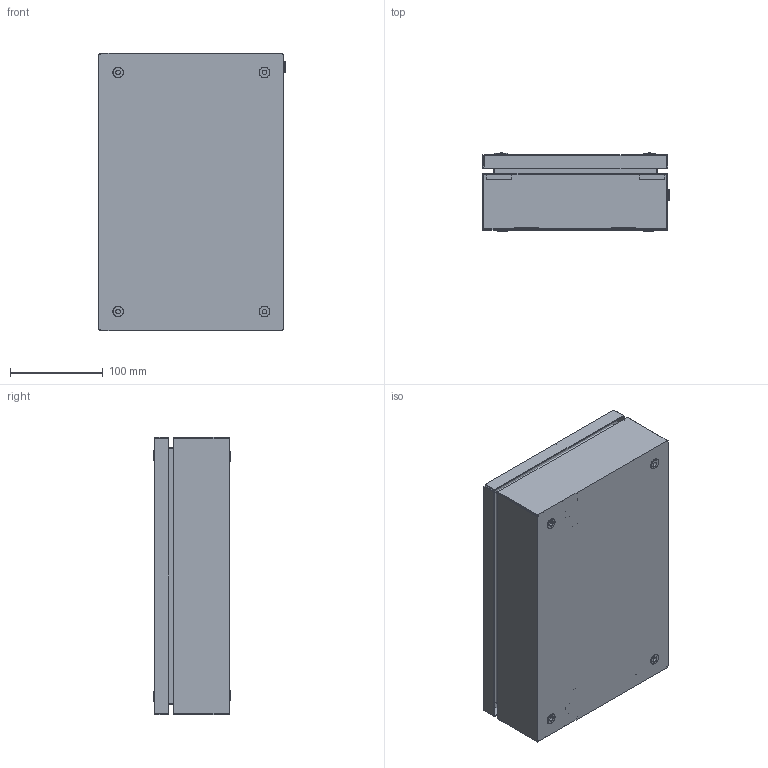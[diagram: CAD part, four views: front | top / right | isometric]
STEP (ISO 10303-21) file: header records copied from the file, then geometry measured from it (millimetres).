
FILE_DESCRIPTION(('Open CASCADE Model'),'2;1');
FILE_NAME('Open CASCADE Shape Model','2025-11-18T11:38:35',('Author'),( 'Open CASCADE'),'Open CASCADE STEP processor 7.8','Open CASCADE 7.8' ,'Unknown');
FILE_SCHEMA(('AUTOMOTIVE_DESIGN { 1 0 10303 214 1 1 1 1 }'));
Length unit declared in the file: millimetre
Products named in the file (19): Compound1; Compound2; Compound3; Compound4; Solid1; Solid2; Solid3; Solid4; Solid5; Solid6; Compound5; Compound6; Solid7; Solid8; Solid9; Solid10; Solid11; Solid12; Solid13
Assembly tree (33 placements, depth 5):
  Compound1
    Compound2
      Compound3
        Compound4
          Solid1
          Solid2  x2
          Solid3  x2
          Solid4  x2
          Solid5
        Solid6
      Compound5
        Compound6
          Solid7
          Solid8
        Solid9
      Solid10  x4
      Solid11  x4
      Solid12  x4
    Solid13  x4
Bounding box: 201.5 x 83.79 x 300 mm (x, y, z)
Volume: 385217.8 mm3; surface area: 536966 mm2
Topology: 28 solids, 28 shells, 934 faces, 2505 edges, 1656 vertices
Faces by surface type: plane 673, cylinder 135, cone 48, bspline 40, torus 30, sphere 8
Full cylindrical faces by diameter (mm): 4 x14, 4.134 x4, 5 x9, 5.2 x4, 5.3 x4, 5.5 x4, 6 x2, 6.5 x4, 7.5 x6, 7.8 x4, 8 x4, 8.5 x5, 9 x1, 9.1 x1, 11.5 x4, 12 x1, 13.5 x4, 15.791 x4
Entity records: 16104 total; most frequent: CARTESIAN_POINT 4929, ORIENTED_EDGE 2340, DIRECTION 2094, EDGE_CURVE 1170, VERTEX_POINT 773, LINE 758, VECTOR 758, AXIS2_PLACEMENT_3D 668
